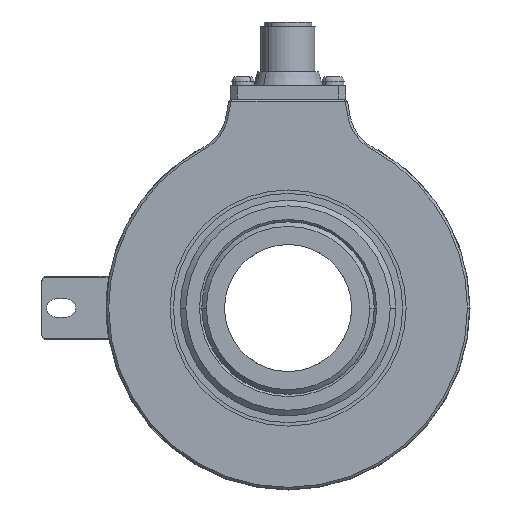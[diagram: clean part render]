
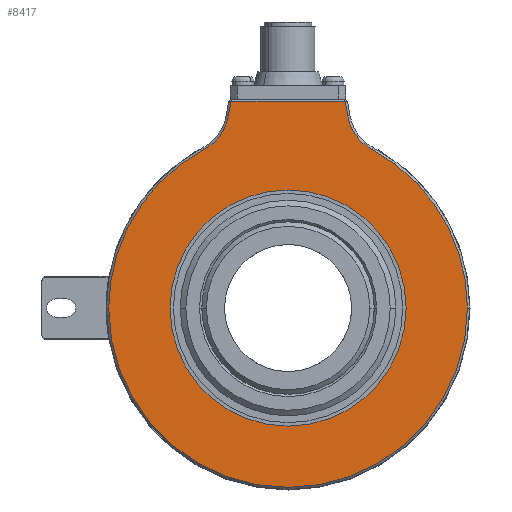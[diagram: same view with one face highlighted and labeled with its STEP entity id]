
A CAD part, left-side view. The second image highlights one B-rep face of the part: STEP entity #8417.
In plain terms, the highlighted planar face has unit normal (-1, 0, 0).
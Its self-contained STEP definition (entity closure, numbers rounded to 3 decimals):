
#402 = DIRECTION ( 'NONE',  ( 0., 1., 0. ) ) ;
#628 = CARTESIAN_POINT ( 'NONE',  ( -26., 13.141, 42.32 ) ) ;
#679 = ORIENTED_EDGE ( 'NONE', *, *, #3284, .T. ) ;
#890 = CARTESIAN_POINT ( 'NONE',  ( -26., -18.776, 10.364 ) ) ;
#899 = VECTOR ( 'NONE', #402, 1000. ) ;
#1161 = CARTESIAN_POINT ( 'NONE',  ( -26., 0., 0. ) ) ;
#1396 = VERTEX_POINT ( 'NONE', #21771 ) ;
#1439 = EDGE_CURVE ( 'NONE', #12915, #20446, #6019, .T. ) ;
#1538 = AXIS2_PLACEMENT_3D ( 'NONE', #21079, #4987, #17556 ) ;
#1926 = CARTESIAN_POINT ( 'NONE',  ( -26., 12.58, 45.5 ) ) ;
#2170 = CARTESIAN_POINT ( 'NONE',  ( -26., 0., 0. ) ) ;
#2199 = DIRECTION ( 'NONE',  ( 0., -1., 0. ) ) ;
#2444 = DIRECTION ( 'NONE',  ( -1., 0., 0. ) ) ;
#2545 = DIRECTION ( 'NONE',  ( 1., 0., 0. ) ) ;
#2911 = EDGE_LOOP ( 'NONE', ( #17042, #22698, #679, #11119, #3760, #9606, #20140, #19943 ) ) ;
#3049 = CIRCLE ( 'NONE', #18799, 39.5 ) ;
#3284 = EDGE_CURVE ( 'NONE', #4383, #12171, #5394, .T. ) ;
#3760 = ORIENTED_EDGE ( 'NONE', *, *, #6295, .T. ) ;
#4068 = CARTESIAN_POINT ( 'NONE',  ( -26., -13.141, 42.32 ) ) ;
#4170 = LINE ( 'NONE', #9300, #899 ) ;
#4172 = AXIS2_PLACEMENT_3D ( 'NONE', #5403, #22701, #4850 ) ;
#4279 = AXIS2_PLACEMENT_3D ( 'NONE', #12858, #2545, #2199 ) ;
#4383 = VERTEX_POINT ( 'NONE', #1926 ) ;
#4401 = VERTEX_POINT ( 'NONE', #9072 ) ;
#4547 = CIRCLE ( 'NONE', #4172, 10.5 ) ;
#4842 = AXIS2_PLACEMENT_3D ( 'NONE', #21336, #10284, #12266 ) ;
#4850 = DIRECTION ( 'NONE',  ( 0., -1., 0. ) ) ;
#4970 = CARTESIAN_POINT ( 'NONE',  ( -26., -12.58, 45.5 ) ) ;
#4987 = DIRECTION ( 'NONE',  ( 1., 0., 0. ) ) ;
#5143 = CIRCLE ( 'NONE', #12616, 39.5 ) ;
#5394 = LINE ( 'NONE', #21843, #17297 ) ;
#5403 = CARTESIAN_POINT ( 'NONE',  ( -26., -23.482, 44.143 ) ) ;
#6019 = LINE ( 'NONE', #890, #7351 ) ;
#6295 = EDGE_CURVE ( 'NONE', #8126, #12911, #5143, .T. ) ;
#6941 = AXIS2_PLACEMENT_3D ( 'NONE', #1161, #2444, #22633 ) ;
#7080 = AXIS2_PLACEMENT_3D ( 'NONE', #7956, #9692, #15085 ) ;
#7134 = CARTESIAN_POINT ( 'NONE',  ( -26., 18.551, 34.873 ) ) ;
#7351 = VECTOR ( 'NONE', #22009, 1000. ) ;
#7956 = CARTESIAN_POINT ( 'NONE',  ( -26., 0., 0. ) ) ;
#8126 = VERTEX_POINT ( 'NONE', #7134 ) ;
#8206 = CIRCLE ( 'NONE', #7080, 26. ) ;
#8391 = EDGE_CURVE ( 'NONE', #1396, #21248, #8206, .T. ) ;
#8417 = ADVANCED_FACE ( 'NONE', ( #15917, #17460 ), #23068, .T. ) ;
#8653 = CARTESIAN_POINT ( 'NONE',  ( -26., -18.551, 34.873 ) ) ;
#8796 = DIRECTION ( 'NONE',  ( 0., 0.174, -0.985 ) ) ;
#9072 = CARTESIAN_POINT ( 'NONE',  ( -26., -39.5, 0. ) ) ;
#9300 = CARTESIAN_POINT ( 'NONE',  ( -26., 40., 45.5 ) ) ;
#9492 = CARTESIAN_POINT ( 'NONE',  ( -26., -26., 0. ) ) ;
#9606 = ORIENTED_EDGE ( 'NONE', *, *, #19142, .T. ) ;
#9692 = DIRECTION ( 'NONE',  ( 1., 0., 0. ) ) ;
#10074 = EDGE_CURVE ( 'NONE', #21248, #1396, #11640, .T. ) ;
#10284 = DIRECTION ( 'NONE',  ( -1., 0., 0. ) ) ;
#10607 = EDGE_LOOP ( 'NONE', ( #15276, #18015 ) ) ;
#10652 = EDGE_CURVE ( 'NONE', #4401, #14431, #3049, .T. ) ;
#10802 = EDGE_CURVE ( 'NONE', #14431, #12915, #4547, .T. ) ;
#11119 = ORIENTED_EDGE ( 'NONE', *, *, #15618, .T. ) ;
#11640 = CIRCLE ( 'NONE', #1538, 26. ) ;
#12171 = VERTEX_POINT ( 'NONE', #628 ) ;
#12266 = DIRECTION ( 'NONE',  ( 0., -1., 0. ) ) ;
#12616 = AXIS2_PLACEMENT_3D ( 'NONE', #2170, #13293, #20472 ) ;
#12858 = CARTESIAN_POINT ( 'NONE',  ( -26., 23.482, 44.143 ) ) ;
#12911 = VERTEX_POINT ( 'NONE', #18024 ) ;
#12915 = VERTEX_POINT ( 'NONE', #4068 ) ;
#13293 = DIRECTION ( 'NONE',  ( -1., 0., 0. ) ) ;
#13304 = CIRCLE ( 'NONE', #6941, 39.5 ) ;
#14431 = VERTEX_POINT ( 'NONE', #8653 ) ;
#14870 = EDGE_CURVE ( 'NONE', #20446, #4383, #4170, .T. ) ;
#15085 = DIRECTION ( 'NONE',  ( 0., 1., 0. ) ) ;
#15117 = CIRCLE ( 'NONE', #4279, 10.5 ) ;
#15276 = ORIENTED_EDGE ( 'NONE', *, *, #8391, .T. ) ;
#15618 = EDGE_CURVE ( 'NONE', #12171, #8126, #15117, .T. ) ;
#15917 = FACE_OUTER_BOUND ( 'NONE', #2911, .T. ) ;
#16719 = DIRECTION ( 'NONE',  ( -1., 0., 0. ) ) ;
#17042 = ORIENTED_EDGE ( 'NONE', *, *, #1439, .T. ) ;
#17184 = CARTESIAN_POINT ( 'NONE',  ( -26., 0., 0. ) ) ;
#17297 = VECTOR ( 'NONE', #8796, 1000. ) ;
#17460 = FACE_BOUND ( 'NONE', #10607, .T. ) ;
#17556 = DIRECTION ( 'NONE',  ( 0., 1., 0. ) ) ;
#18015 = ORIENTED_EDGE ( 'NONE', *, *, #10074, .T. ) ;
#18024 = CARTESIAN_POINT ( 'NONE',  ( -26., 39.5, 0. ) ) ;
#18718 = DIRECTION ( 'NONE',  ( 0., -1., 0. ) ) ;
#18799 = AXIS2_PLACEMENT_3D ( 'NONE', #17184, #16719, #18718 ) ;
#19142 = EDGE_CURVE ( 'NONE', #12911, #4401, #13304, .T. ) ;
#19943 = ORIENTED_EDGE ( 'NONE', *, *, #10802, .T. ) ;
#20140 = ORIENTED_EDGE ( 'NONE', *, *, #10652, .T. ) ;
#20446 = VERTEX_POINT ( 'NONE', #4970 ) ;
#20472 = DIRECTION ( 'NONE',  ( 0., -1., 0. ) ) ;
#21079 = CARTESIAN_POINT ( 'NONE',  ( -26., 0., 0. ) ) ;
#21248 = VERTEX_POINT ( 'NONE', #9492 ) ;
#21336 = CARTESIAN_POINT ( 'NONE',  ( -26., 40., 0. ) ) ;
#21771 = CARTESIAN_POINT ( 'NONE',  ( -26., 26., 0. ) ) ;
#21843 = CARTESIAN_POINT ( 'NONE',  ( -26., 21.188, -3.317 ) ) ;
#22009 = DIRECTION ( 'NONE',  ( 0., 0.174, 0.985 ) ) ;
#22633 = DIRECTION ( 'NONE',  ( 0., -1., 0. ) ) ;
#22698 = ORIENTED_EDGE ( 'NONE', *, *, #14870, .T. ) ;
#22701 = DIRECTION ( 'NONE',  ( 1., 0., 0. ) ) ;
#23068 = PLANE ( 'NONE',  #4842 ) ;
